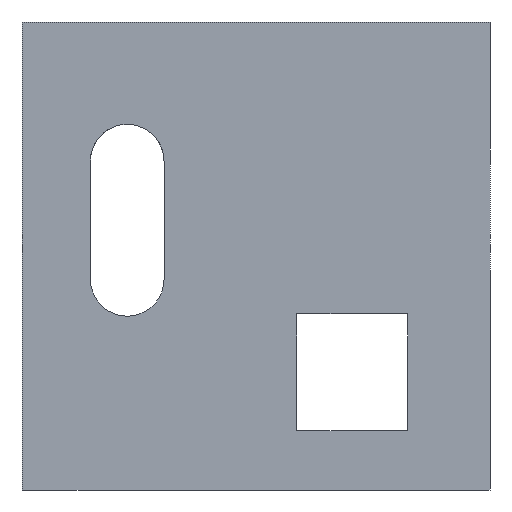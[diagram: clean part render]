
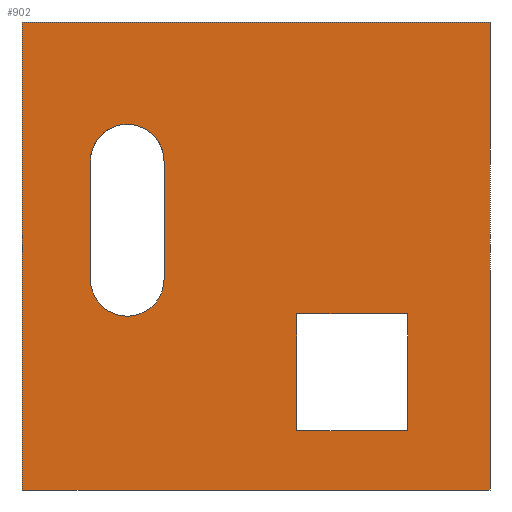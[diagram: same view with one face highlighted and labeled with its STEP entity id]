
A CAD part, left-side view. The second image highlights one B-rep face of the part: STEP entity #902.
In plain terms, the highlighted planar face has unit normal (-1, 0, 0).
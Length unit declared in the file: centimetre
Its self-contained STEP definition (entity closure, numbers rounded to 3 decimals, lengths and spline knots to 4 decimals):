
#34 = LINE ( 'NONE', #953, #621 ) ;
#46 = ORIENTED_EDGE ( 'NONE', *, *, #448, .T. ) ;
#49 = CARTESIAN_POINT ( 'NONE',  ( 0., 853.7614, 702.8518 ) ) ;
#52 = CARTESIAN_POINT ( 'NONE',  ( 0., 412.9517, 127.053 ) ) ;
#63 = DIRECTION ( 'NONE',  ( 0., 0., 1. ) ) ;
#69 = LINE ( 'NONE', #836, #1067 ) ;
#84 = EDGE_CURVE ( 'NONE', #1284, #781, #1323, .T. ) ;
#97 = FACE_OUTER_BOUND ( 'NONE', #566, .T. ) ;
#114 = PLANE ( 'NONE',  #190 ) ;
#121 = CARTESIAN_POINT ( 'NONE',  ( 0., 775.133, 702.8518 ) ) ;
#128 = CIRCLE ( 'NONE', #1059, 78.6284 ) ;
#131 = VERTEX_POINT ( 'NONE', #575 ) ;
#144 = LINE ( 'NONE', #789, #1240 ) ;
#154 = VERTEX_POINT ( 'NONE', #496 ) ;
#159 = ORIENTED_EDGE ( 'NONE', *, *, #1374, .T. ) ;
#169 = LINE ( 'NONE', #1565, #907 ) ;
#187 = CARTESIAN_POINT ( 'NONE',  ( 0., 853.7614, 702.8518 ) ) ;
#190 = AXIS2_PLACEMENT_3D ( 'NONE', #1581, #607, #485 ) ;
#200 = VERTEX_POINT ( 'NONE', #603 ) ;
#206 = EDGE_CURVE ( 'NONE', #687, #1450, #128, .T. ) ;
#216 = ORIENTED_EDGE ( 'NONE', *, *, #206, .T. ) ;
#242 = DIRECTION ( 'NONE',  ( 0., 0., 1. ) ) ;
#244 = VECTOR ( 'NONE', #1549, 100. ) ;
#261 = LINE ( 'NONE', #1515, #1349 ) ;
#276 = DIRECTION ( 'NONE',  ( 1., 0., 0. ) ) ;
#287 = CARTESIAN_POINT ( 'NONE',  ( 0., 1000., 1000. ) ) ;
#330 = EDGE_CURVE ( 'NONE', #131, #1428, #774, .T. ) ;
#362 = DIRECTION ( 'NONE',  ( 0., 0., -1. ) ) ;
#433 = AXIS2_PLACEMENT_3D ( 'NONE', #1011, #276, #1386 ) ;
#436 = CARTESIAN_POINT ( 'NONE',  ( 0., 1000., 0. ) ) ;
#443 = LINE ( 'NONE', #187, #1426 ) ;
#448 = EDGE_CURVE ( 'NONE', #200, #687, #647, .T. ) ;
#451 = CARTESIAN_POINT ( 'NONE',  ( 0., 1000., 1000. ) ) ;
#457 = EDGE_CURVE ( 'NONE', #154, #131, #144, .T. ) ;
#469 = CARTESIAN_POINT ( 'NONE',  ( 0., 0., 1000. ) ) ;
#471 = ORIENTED_EDGE ( 'NONE', *, *, #519, .T. ) ;
#485 = DIRECTION ( 'NONE',  ( 0., 0., -1. ) ) ;
#493 = FACE_BOUND ( 'NONE', #1504, .T. ) ;
#496 = CARTESIAN_POINT ( 'NONE',  ( 0., 176.0646, 376.3277 ) ) ;
#497 = EDGE_CURVE ( 'NONE', #693, #929, #1577, .T. ) ;
#500 = ORIENTED_EDGE ( 'NONE', *, *, #1345, .T. ) ;
#519 = EDGE_CURVE ( 'NONE', #1109, #154, #261, .T. ) ;
#546 = DIRECTION ( 'NONE',  ( 0., 0., 1. ) ) ;
#566 = EDGE_LOOP ( 'NONE', ( #159, #815, #1160, #1049 ) ) ;
#575 = CARTESIAN_POINT ( 'NONE',  ( 0., 176.0646, 127.053 ) ) ;
#603 = CARTESIAN_POINT ( 'NONE',  ( 0., 696.5047, 449.9812 ) ) ;
#607 = DIRECTION ( 'NONE',  ( 1., 0., 0. ) ) ;
#613 = CARTESIAN_POINT ( 'NONE',  ( 0., 0., 0. ) ) ;
#616 = FACE_BOUND ( 'NONE', #1092, .T. ) ;
#619 = AXIS2_PLACEMENT_3D ( 'NONE', #121, #623, #1135 ) ;
#621 = VECTOR ( 'NONE', #546, 100. ) ;
#623 = DIRECTION ( 'NONE',  ( 1., 0., 0. ) ) ;
#629 = CARTESIAN_POINT ( 'NONE',  ( 0., 696.5047, 702.8518 ) ) ;
#647 = CIRCLE ( 'NONE', #433, 78.6284 ) ;
#687 = VERTEX_POINT ( 'NONE', #840 ) ;
#693 = VERTEX_POINT ( 'NONE', #49 ) ;
#746 = LINE ( 'NONE', #1239, #962 ) ;
#767 = EDGE_CURVE ( 'NONE', #1284, #1607, #1071, .T. ) ;
#774 = LINE ( 'NONE', #1028, #1043 ) ;
#781 = VERTEX_POINT ( 'NONE', #436 ) ;
#789 = CARTESIAN_POINT ( 'NONE',  ( 0., 176.0646, 127.053 ) ) ;
#815 = ORIENTED_EDGE ( 'NONE', *, *, #1327, .F. ) ;
#836 = CARTESIAN_POINT ( 'NONE',  ( 0., 1000., 0. ) ) ;
#840 = CARTESIAN_POINT ( 'NONE',  ( 0., 775.133, 371.3528 ) ) ;
#901 = VECTOR ( 'NONE', #1196, 100. ) ;
#902 = ADVANCED_FACE ( 'NONE', ( #616, #493, #97 ), #114, .F. ) ;
#907 = VECTOR ( 'NONE', #1570, 100. ) ;
#923 = ORIENTED_EDGE ( 'NONE', *, *, #330, .T. ) ;
#929 = VERTEX_POINT ( 'NONE', #629 ) ;
#953 = CARTESIAN_POINT ( 'NONE',  ( 0., 412.9517, 127.053 ) ) ;
#962 = VECTOR ( 'NONE', #362, 100. ) ;
#1007 = CARTESIAN_POINT ( 'NONE',  ( 0., 412.9517, 376.3277 ) ) ;
#1011 = CARTESIAN_POINT ( 'NONE',  ( 0., 775.133, 449.9812 ) ) ;
#1028 = CARTESIAN_POINT ( 'NONE',  ( 0., 176.0646, 127.053 ) ) ;
#1043 = VECTOR ( 'NONE', #1502, 100. ) ;
#1049 = ORIENTED_EDGE ( 'NONE', *, *, #84, .T. ) ;
#1059 = AXIS2_PLACEMENT_3D ( 'NONE', #1245, #1219, #242 ) ;
#1061 = CARTESIAN_POINT ( 'NONE',  ( 0., 1000., 1000. ) ) ;
#1067 = VECTOR ( 'NONE', #1305, 100. ) ;
#1071 = LINE ( 'NONE', #1061, #244 ) ;
#1092 = EDGE_LOOP ( 'NONE', ( #1469, #46, #216, #500, #1228 ) ) ;
#1099 = ORIENTED_EDGE ( 'NONE', *, *, #457, .T. ) ;
#1109 = VERTEX_POINT ( 'NONE', #1007 ) ;
#1125 = ORIENTED_EDGE ( 'NONE', *, *, #1460, .T. ) ;
#1135 = DIRECTION ( 'NONE',  ( 0., 0., 1. ) ) ;
#1146 = DIRECTION ( 'NONE',  ( 0., -1., 0. ) ) ;
#1158 = DIRECTION ( 'NONE',  ( 0., 0., -1. ) ) ;
#1160 = ORIENTED_EDGE ( 'NONE', *, *, #767, .F. ) ;
#1196 = DIRECTION ( 'NONE',  ( 0., 0., -1. ) ) ;
#1219 = DIRECTION ( 'NONE',  ( 1., 0., 0. ) ) ;
#1228 = ORIENTED_EDGE ( 'NONE', *, *, #497, .T. ) ;
#1239 = CARTESIAN_POINT ( 'NONE',  ( 0., 696.5047, 449.9812 ) ) ;
#1240 = VECTOR ( 'NONE', #1158, 100. ) ;
#1245 = CARTESIAN_POINT ( 'NONE',  ( 0., 775.133, 449.9812 ) ) ;
#1284 = VERTEX_POINT ( 'NONE', #287 ) ;
#1305 = DIRECTION ( 'NONE',  ( 0., -1., 0. ) ) ;
#1323 = LINE ( 'NONE', #451, #901 ) ;
#1327 = EDGE_CURVE ( 'NONE', #1607, #1496, #169, .T. ) ;
#1345 = EDGE_CURVE ( 'NONE', #1450, #693, #443, .T. ) ;
#1349 = VECTOR ( 'NONE', #1146, 100. ) ;
#1374 = EDGE_CURVE ( 'NONE', #781, #1496, #69, .T. ) ;
#1386 = DIRECTION ( 'NONE',  ( 0., 0., 1. ) ) ;
#1426 = VECTOR ( 'NONE', #63, 100. ) ;
#1428 = VERTEX_POINT ( 'NONE', #52 ) ;
#1450 = VERTEX_POINT ( 'NONE', #1455 ) ;
#1455 = CARTESIAN_POINT ( 'NONE',  ( 0., 853.7614, 449.9812 ) ) ;
#1460 = EDGE_CURVE ( 'NONE', #1428, #1109, #34, .T. ) ;
#1469 = ORIENTED_EDGE ( 'NONE', *, *, #1520, .T. ) ;
#1496 = VERTEX_POINT ( 'NONE', #613 ) ;
#1502 = DIRECTION ( 'NONE',  ( 0., 1., 0. ) ) ;
#1504 = EDGE_LOOP ( 'NONE', ( #1099, #923, #1125, #471 ) ) ;
#1515 = CARTESIAN_POINT ( 'NONE',  ( 0., 176.0646, 376.3277 ) ) ;
#1520 = EDGE_CURVE ( 'NONE', #929, #200, #746, .T. ) ;
#1549 = DIRECTION ( 'NONE',  ( 0., -1., 0. ) ) ;
#1565 = CARTESIAN_POINT ( 'NONE',  ( 0., 0., 1000. ) ) ;
#1570 = DIRECTION ( 'NONE',  ( 0., 0., -1. ) ) ;
#1577 = CIRCLE ( 'NONE', #619, 78.6284 ) ;
#1581 = CARTESIAN_POINT ( 'NONE',  ( 0., 1000., 1000. ) ) ;
#1607 = VERTEX_POINT ( 'NONE', #469 ) ;
